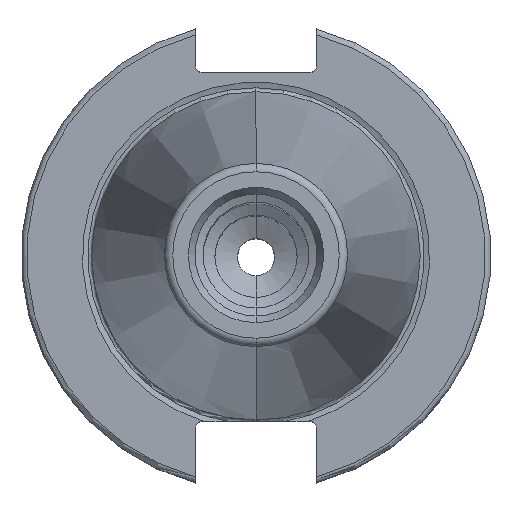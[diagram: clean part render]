
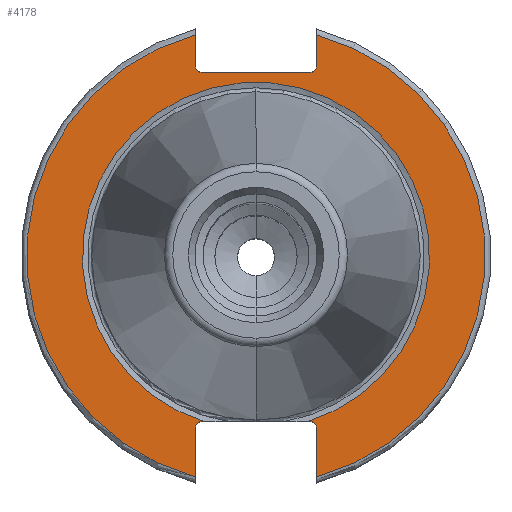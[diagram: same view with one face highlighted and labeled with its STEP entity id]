
A CAD part, top view. The second image highlights one B-rep face of the part: STEP entity #4178.
In plain terms, the highlighted planar face has unit normal (0, 0, 1).
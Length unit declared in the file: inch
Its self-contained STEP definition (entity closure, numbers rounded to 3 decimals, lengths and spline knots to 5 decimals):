
#6 = VERTEX_POINT ( 'NONE', #2817 ) ;
#40 = ORIENTED_EDGE ( 'NONE', *, *, #3540, .T. ) ;
#120 = CARTESIAN_POINT ( 'NONE',  ( 0.3225, 0., -0.125 ) ) ;
#226 = ORIENTED_EDGE ( 'NONE', *, *, #228, .T. ) ;
#228 = EDGE_CURVE ( 'NONE', #3757, #6, #2357, .T. ) ;
#307 = CARTESIAN_POINT ( 'NONE',  ( 0., 0., -0.125 ) ) ;
#341 = VERTEX_POINT ( 'NONE', #1269 ) ;
#427 = CARTESIAN_POINT ( 'NONE',  ( 0.2925, 0.9775, -0.125 ) ) ;
#436 = VECTOR ( 'NONE', #1901, 39.37008 ) ;
#463 = DIRECTION ( 'NONE',  ( 0., 0., -1. ) ) ;
#468 = CARTESIAN_POINT ( 'NONE',  ( 1.22, -0.8825, -0.125 ) ) ;
#563 = DIRECTION ( 'NONE',  ( 1., 0., 0. ) ) ;
#571 = LINE ( 'NONE', #4388, #3323 ) ;
#614 = CARTESIAN_POINT ( 'NONE',  ( 0.2925, -0.8825, -0.125 ) ) ;
#615 = VERTEX_POINT ( 'NONE', #4944 ) ;
#682 = EDGE_CURVE ( 'NONE', #1756, #2989, #1442, .T. ) ;
#725 = DIRECTION ( 'NONE',  ( 0., 1., 0. ) ) ;
#745 = CARTESIAN_POINT ( 'NONE',  ( 0.3225, 0., -0.125 ) ) ;
#772 = LINE ( 'NONE', #745, #436 ) ;
#777 = ORIENTED_EDGE ( 'NONE', *, *, #3532, .T. ) ;
#803 = VERTEX_POINT ( 'NONE', #4859 ) ;
#832 = AXIS2_PLACEMENT_3D ( 'NONE', #4221, #2737, #1930 ) ;
#848 = LINE ( 'NONE', #3199, #4597 ) ;
#926 = ORIENTED_EDGE ( 'NONE', *, *, #4757, .T. ) ;
#999 = LINE ( 'NONE', #120, #4101 ) ;
#1011 = ORIENTED_EDGE ( 'NONE', *, *, #2337, .T. ) ;
#1023 = CARTESIAN_POINT ( 'NONE',  ( 0.27356, -0.8825, -0.125 ) ) ;
#1029 = CARTESIAN_POINT ( 'NONE',  ( -0.3225, 1.1766, -0.125 ) ) ;
#1121 = VERTEX_POINT ( 'NONE', #4576 ) ;
#1126 = ORIENTED_EDGE ( 'NONE', *, *, #4218, .T. ) ;
#1171 = LINE ( 'NONE', #468, #2105 ) ;
#1184 = CARTESIAN_POINT ( 'NONE',  ( -0.3225, -0.9125, -0.125 ) ) ;
#1196 = CIRCLE ( 'NONE', #4729, 1.22 ) ;
#1213 = PLANE ( 'NONE',  #832 ) ;
#1256 = LINE ( 'NONE', #1655, #2584 ) ;
#1269 = CARTESIAN_POINT ( 'NONE',  ( -0.3225, -1.1766, -0.125 ) ) ;
#1297 = ORIENTED_EDGE ( 'NONE', *, *, #2706, .F. ) ;
#1353 = CARTESIAN_POINT ( 'NONE',  ( 0.2925, 1.0075, -0.125 ) ) ;
#1430 = ORIENTED_EDGE ( 'NONE', *, *, #4349, .F. ) ;
#1442 = CIRCLE ( 'NONE', #2104, 0.03 ) ;
#1452 = CIRCLE ( 'NONE', #3338, 0.92393 ) ;
#1496 = DIRECTION ( 'NONE',  ( 0., 0., -1. ) ) ;
#1526 = DIRECTION ( 'NONE',  ( 0., -1., 0. ) ) ;
#1574 = CARTESIAN_POINT ( 'NONE',  ( -0.2925, 1.0075, -0.125 ) ) ;
#1643 = CARTESIAN_POINT ( 'NONE',  ( 0.2925, -0.9125, -0.125 ) ) ;
#1649 = DIRECTION ( 'NONE',  ( 0., 1., 0. ) ) ;
#1655 = CARTESIAN_POINT ( 'NONE',  ( -0.3225, 0., -0.125 ) ) ;
#1756 = VERTEX_POINT ( 'NONE', #1184 ) ;
#1772 = DIRECTION ( 'NONE',  ( 0., 0., -1. ) ) ;
#1901 = DIRECTION ( 'NONE',  ( 0., 1., 0. ) ) ;
#1930 = DIRECTION ( 'NONE',  ( 0., -1., 0. ) ) ;
#1941 = CIRCLE ( 'NONE', #2020, 0.03 ) ;
#2020 = AXIS2_PLACEMENT_3D ( 'NONE', #1353, #2505, #2928 ) ;
#2039 = AXIS2_PLACEMENT_3D ( 'NONE', #1574, #463, #1526 ) ;
#2068 = DIRECTION ( 'NONE',  ( 0., 0., -1. ) ) ;
#2071 = VERTEX_POINT ( 'NONE', #1023 ) ;
#2089 = CIRCLE ( 'NONE', #4503, 0.03 ) ;
#2104 = AXIS2_PLACEMENT_3D ( 'NONE', #4246, #1496, #4572 ) ;
#2105 = VECTOR ( 'NONE', #4261, 39.37008 ) ;
#2116 = EDGE_CURVE ( 'NONE', #615, #3879, #2560, .T. ) ;
#2129 = DIRECTION ( 'NONE',  ( 0., -1., 0. ) ) ;
#2279 = CARTESIAN_POINT ( 'NONE',  ( 0.3225, -0.9125, -0.125 ) ) ;
#2283 = ORIENTED_EDGE ( 'NONE', *, *, #2116, .F. ) ;
#2314 = EDGE_CURVE ( 'NONE', #3757, #4346, #4379, .T. ) ;
#2337 = EDGE_CURVE ( 'NONE', #3292, #3879, #999, .T. ) ;
#2357 = CIRCLE ( 'NONE', #2039, 0.03 ) ;
#2505 = DIRECTION ( 'NONE',  ( 0., 0., -1. ) ) ;
#2560 = CIRCLE ( 'NONE', #3364, 1.22 ) ;
#2584 = VECTOR ( 'NONE', #4421, 39.37008 ) ;
#2705 = CARTESIAN_POINT ( 'NONE',  ( -0.2925, 0.9775, -0.125 ) ) ;
#2706 = EDGE_CURVE ( 'NONE', #341, #3107, #1196, .T. ) ;
#2737 = DIRECTION ( 'NONE',  ( 0., 0., 1. ) ) ;
#2760 = FACE_OUTER_BOUND ( 'NONE', #4494, .T. ) ;
#2817 = CARTESIAN_POINT ( 'NONE',  ( -0.3225, 1.0075, -0.125 ) ) ;
#2833 = DIRECTION ( 'NONE',  ( 0., 0., -1. ) ) ;
#2859 = CARTESIAN_POINT ( 'NONE',  ( 0., 0., -0.125 ) ) ;
#2900 = CARTESIAN_POINT ( 'NONE',  ( 1.22, 0.9775, -0.125 ) ) ;
#2928 = DIRECTION ( 'NONE',  ( 0., -1., 0. ) ) ;
#2946 = EDGE_CURVE ( 'NONE', #3575, #3292, #2089, .T. ) ;
#2960 = CARTESIAN_POINT ( 'NONE',  ( -0.2925, -0.8825, -0.125 ) ) ;
#2989 = VERTEX_POINT ( 'NONE', #2960 ) ;
#3024 = ORIENTED_EDGE ( 'NONE', *, *, #2314, .F. ) ;
#3107 = VERTEX_POINT ( 'NONE', #1029 ) ;
#3199 = CARTESIAN_POINT ( 'NONE',  ( 1.22, -0.8825, -0.125 ) ) ;
#3211 = ORIENTED_EDGE ( 'NONE', *, *, #682, .T. ) ;
#3239 = ORIENTED_EDGE ( 'NONE', *, *, #4080, .F. ) ;
#3292 = VERTEX_POINT ( 'NONE', #2279 ) ;
#3323 = VECTOR ( 'NONE', #4713, 39.37008 ) ;
#3338 = AXIS2_PLACEMENT_3D ( 'NONE', #307, #1772, #725 ) ;
#3364 = AXIS2_PLACEMENT_3D ( 'NONE', #4111, #3801, #4523 ) ;
#3532 = EDGE_CURVE ( 'NONE', #341, #1756, #1256, .T. ) ;
#3540 = EDGE_CURVE ( 'NONE', #1121, #4346, #1941, .T. ) ;
#3575 = VERTEX_POINT ( 'NONE', #614 ) ;
#3647 = DIRECTION ( 'NONE',  ( 0., -1., 0. ) ) ;
#3757 = VERTEX_POINT ( 'NONE', #2705 ) ;
#3801 = DIRECTION ( 'NONE',  ( 0., 0., -1. ) ) ;
#3879 = VERTEX_POINT ( 'NONE', #4391 ) ;
#3932 = VECTOR ( 'NONE', #563, 39.37008 ) ;
#4080 = EDGE_CURVE ( 'NONE', #3107, #6, #571, .T. ) ;
#4101 = VECTOR ( 'NONE', #3647, 39.37008 ) ;
#4111 = CARTESIAN_POINT ( 'NONE',  ( 0., 0., -0.125 ) ) ;
#4178 = ADVANCED_FACE ( 'NONE', ( #2760 ), #1213, .T. ) ;
#4218 = EDGE_CURVE ( 'NONE', #2989, #803, #1171, .T. ) ;
#4221 = CARTESIAN_POINT ( 'NONE',  ( 1.22, 0., -0.125 ) ) ;
#4246 = CARTESIAN_POINT ( 'NONE',  ( -0.2925, -0.9125, -0.125 ) ) ;
#4261 = DIRECTION ( 'NONE',  ( 1., 0., 0. ) ) ;
#4346 = VERTEX_POINT ( 'NONE', #427 ) ;
#4349 = EDGE_CURVE ( 'NONE', #1121, #615, #772, .T. ) ;
#4379 = LINE ( 'NONE', #2900, #3932 ) ;
#4388 = CARTESIAN_POINT ( 'NONE',  ( -0.3225, 0., -0.125 ) ) ;
#4391 = CARTESIAN_POINT ( 'NONE',  ( 0.3225, -1.1766, -0.125 ) ) ;
#4421 = DIRECTION ( 'NONE',  ( 0., 1., 0. ) ) ;
#4494 = EDGE_LOOP ( 'NONE', ( #3239, #1297, #777, #3211, #1126, #4681, #926, #4544, #1011, #2283, #1430, #40, #3024, #226 ) ) ;
#4503 = AXIS2_PLACEMENT_3D ( 'NONE', #1643, #2833, #2129 ) ;
#4523 = DIRECTION ( 'NONE',  ( 0., 1., 0. ) ) ;
#4544 = ORIENTED_EDGE ( 'NONE', *, *, #2946, .T. ) ;
#4572 = DIRECTION ( 'NONE',  ( 0., -1., 0. ) ) ;
#4576 = CARTESIAN_POINT ( 'NONE',  ( 0.3225, 1.0075, -0.125 ) ) ;
#4597 = VECTOR ( 'NONE', #4724, 39.37008 ) ;
#4663 = EDGE_CURVE ( 'NONE', #803, #2071, #1452, .T. ) ;
#4681 = ORIENTED_EDGE ( 'NONE', *, *, #4663, .T. ) ;
#4713 = DIRECTION ( 'NONE',  ( 0., -1., 0. ) ) ;
#4724 = DIRECTION ( 'NONE',  ( 1., 0., 0. ) ) ;
#4729 = AXIS2_PLACEMENT_3D ( 'NONE', #2859, #2068, #1649 ) ;
#4757 = EDGE_CURVE ( 'NONE', #2071, #3575, #848, .T. ) ;
#4859 = CARTESIAN_POINT ( 'NONE',  ( -0.27356, -0.8825, -0.125 ) ) ;
#4944 = CARTESIAN_POINT ( 'NONE',  ( 0.3225, 1.1766, -0.125 ) ) ;
